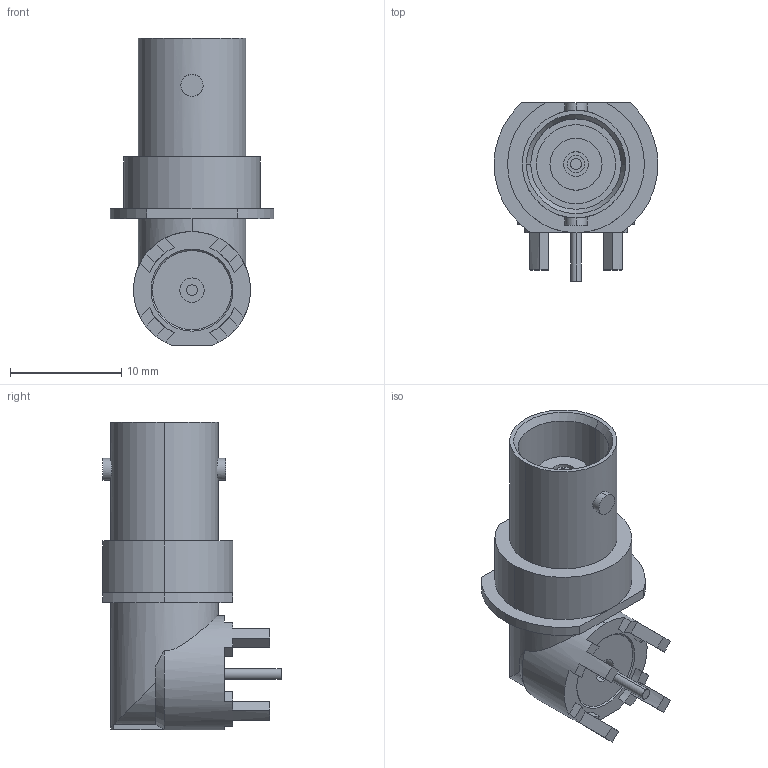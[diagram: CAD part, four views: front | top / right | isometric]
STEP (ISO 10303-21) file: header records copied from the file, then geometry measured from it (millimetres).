
FILE_DESCRIPTION(('STEP AP242'),'1');
FILE_NAME('5415025-2.stp','2025-05-05T13:02:18',('TraceParts'),('TraceParts S.A.'),'Spatial InterOp 3D',' ',' ');
FILE_SCHEMA(('AP242_MANAGED_MODEL_BASED_3D_ENGINEERING_MIM_LF {1 0 10303 442 1 1 4}'));
Length unit declared in the file: millimetre
Products named in the file (1): 5415025-2
Bounding box: 14.73 x 16 x 27.64 mm (x, y, z)
Volume: 2048.6 mm3; surface area: 1660.3 mm2
Topology: 1 solids, 1 shells, 98 faces, 242 edges, 159 vertices
Faces by surface type: plane 50, cylinder 42, cone 6
Entity records: 3091 total; most frequent: CARTESIAN_POINT 675, DIRECTION 528, ORIENTED_EDGE 484, EDGE_CURVE 242, AXIS2_PLACEMENT_3D 204, VERTEX_POINT 159, LINE 120, VECTOR 120
